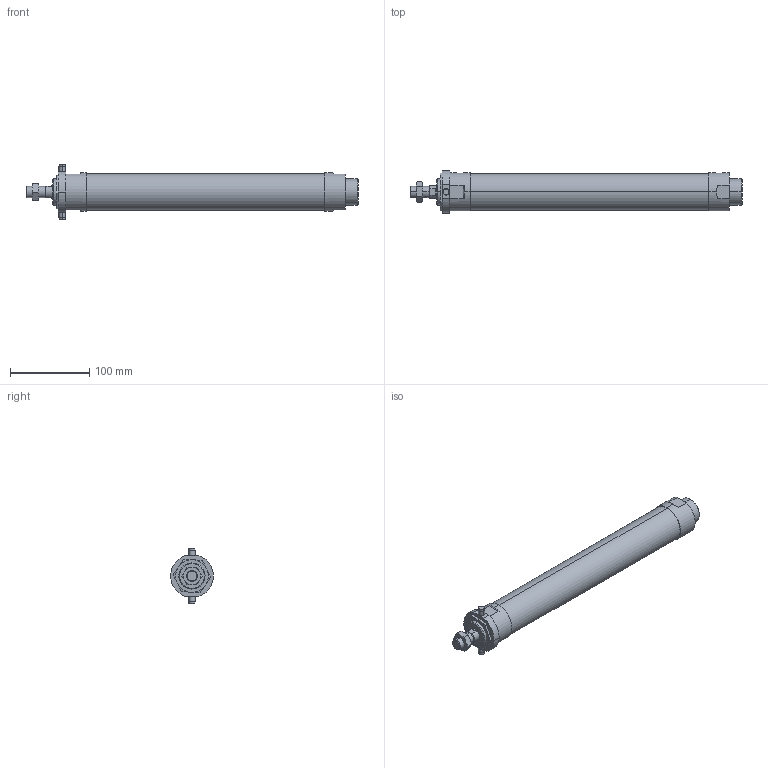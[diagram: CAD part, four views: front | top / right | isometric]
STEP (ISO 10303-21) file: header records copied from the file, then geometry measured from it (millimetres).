
FILE_DESCRIPTION (( 'STEP AP203' ), '1' );
FILE_NAME ('J#2-40-250-T.STEP', '2016-03-08T08:08:49', ( '' ), ( '' ), 'SwSTEP 2.0', 'SolidWorks 2014', '' );
FILE_SCHEMA (( 'CONFIG_CONTROL_DESIGN' ));
Length unit declared in the file: millimetre
Products named in the file (5): J#2-40-T; J#2-40-250; J#2-40-250-T
Assembly tree (4 placements, depth 2):
  J#2-40-250-T
    J#2-40-250
    (unnamed)
    (unnamed)
    J#2-40-T
Bounding box: 419 x 53.91 x 70 mm (x, y, z)
Volume: 641243.3 mm3; surface area: 70399.8 mm2
Topology: 4 solids, 4 shells, 121 faces, 279 edges, 171 vertices
Faces by surface type: plane 39, cylinder 35, torus 24, cone 23
Entity records: 4265 total; most frequent: CARTESIAN_POINT 1053, DIRECTION 576, ORIENTED_EDGE 550, EDGE_CURVE 275, AXIS2_PLACEMENT_3D 236, VERTEX_POINT 171, EDGE_LOOP 136, ADVANCED_FACE 121
